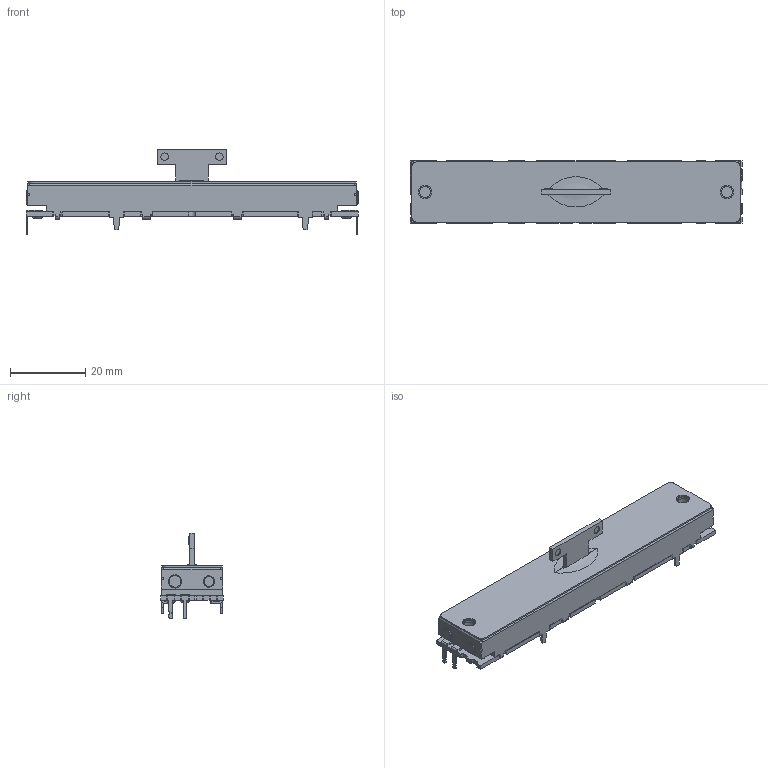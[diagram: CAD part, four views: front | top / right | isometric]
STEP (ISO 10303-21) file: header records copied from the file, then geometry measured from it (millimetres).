
FILE_DESCRIPTION(('FreeCAD Model'),'2;1');
FILE_NAME('Open CASCADE Shape Model','2025-07-01T23:41:26',(''),(''), 'Open CASCADE STEP processor 7.8','FreeCAD','Unknown');
FILE_SCHEMA(('AUTOMOTIVE_DESIGN { 1 0 10303 214 1 1 1 1 }'));
Length unit declared in the file: millimetre
Products named in the file (1): LSVA-610XD
Bounding box: 88 x 16.5 x 22.7 mm (x, y, z)
Volume: 12665.1 mm3; surface area: 6494.1 mm2
Topology: 1 solids, 4 shells, 533 faces, 1471 edges, 962 vertices
Faces by surface type: plane 378, cylinder 136, cone 7, extrusion 6, revolution 3, torus 3
Full cylindrical faces by diameter (mm): 0.5 x3, 1.5 x3, 1.7 x8, 2 x4, 3 x4, 3.5 x4, 4 x2
Entity records: 21011 total; most frequent: CARTESIAN_POINT 3795, ORIENTED_EDGE 2950, DIRECTION 2812, EDGE_CURVE 1471, VECTOR 1131, LINE 1125, VERTEX_POINT 959, AXIS2_PLACEMENT_3D 839
